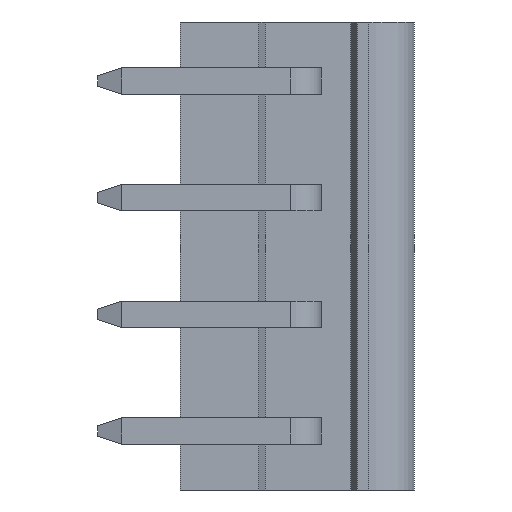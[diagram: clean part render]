
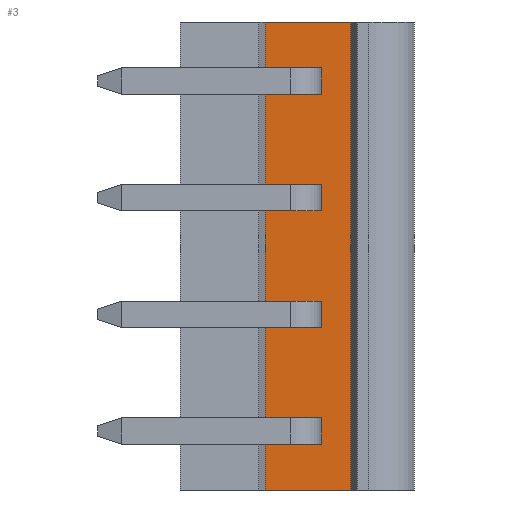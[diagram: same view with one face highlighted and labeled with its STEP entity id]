
A CAD part, front view. The second image highlights one B-rep face of the part: STEP entity #3.
In plain terms, the highlighted planar face has unit normal (0, -1, 0).
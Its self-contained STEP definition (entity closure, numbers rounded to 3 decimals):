
#3 = ADVANCED_FACE ( 'NONE', ( #485 ), #481, .F. ) ;
#37 = EDGE_CURVE ( 'NONE', #211, #288, #656, .T. ) ;
#210 = VERTEX_POINT ( 'NONE', #801 ) ;
#211 = VERTEX_POINT ( 'NONE', #799 ) ;
#250 = VERTEX_POINT ( 'NONE', #824 ) ;
#288 = VERTEX_POINT ( 'NONE', #862 ) ;
#473 = EDGE_LOOP ( 'NONE', ( #1274, #1277, #1309, #1298 ) ) ;
#481 = PLANE ( 'NONE',  #1346 ) ;
#485 = FACE_OUTER_BOUND ( 'NONE', #473, .T. ) ;
#487 = CARTESIAN_POINT ( 'NONE',  ( 7.43, 0.76, -10.22 ) ) ;
#488 = DIRECTION ( 'NONE',  ( 0., 1., 0. ) ) ;
#489 = DIRECTION ( 'NONE',  ( -1., 0., 0. ) ) ;
#656 = LINE ( 'NONE', #657, #1333 ) ;
#657 = CARTESIAN_POINT ( 'NONE',  ( 3.71, 0.76, 10.16 ) ) ;
#658 = DIRECTION ( 'NONE',  ( 1., 0., 0. ) ) ;
#799 = CARTESIAN_POINT ( 'NONE',  ( 3.71, 0.76, 10.16 ) ) ;
#801 = CARTESIAN_POINT ( 'NONE',  ( 3.71, 0.76, -10.22 ) ) ;
#824 = CARTESIAN_POINT ( 'NONE',  ( 7.43, 0.76, -10.22 ) ) ;
#862 = CARTESIAN_POINT ( 'NONE',  ( 7.43, 0.76, 10.16 ) ) ;
#956 = LINE ( 'NONE', #957, #1498 ) ;
#957 = CARTESIAN_POINT ( 'NONE',  ( 7.43, 0.76, -5.11 ) ) ;
#971 = DIRECTION ( 'NONE',  ( 0., 0., -1. ) ) ;
#1001 = LINE ( 'NONE', #1003, #1510 ) ;
#1003 = CARTESIAN_POINT ( 'NONE',  ( 3.71, 0.76, -5.11 ) ) ;
#1004 = DIRECTION ( 'NONE',  ( 0., 0., -1. ) ) ;
#1007 = LINE ( 'NONE', #1008, #1511 ) ;
#1008 = CARTESIAN_POINT ( 'NONE',  ( 5.1, 0.76, -10.22 ) ) ;
#1009 = DIRECTION ( 'NONE',  ( 1., 0., 0. ) ) ;
#1204 = EDGE_CURVE ( 'NONE', #288, #250, #956, .T. ) ;
#1215 = EDGE_CURVE ( 'NONE', #211, #210, #1001, .T. ) ;
#1217 = EDGE_CURVE ( 'NONE', #210, #250, #1007, .T. ) ;
#1274 = ORIENTED_EDGE ( 'NONE', *, *, #1204, .F. ) ;
#1277 = ORIENTED_EDGE ( 'NONE', *, *, #37, .F. ) ;
#1298 = ORIENTED_EDGE ( 'NONE', *, *, #1217, .T. ) ;
#1309 = ORIENTED_EDGE ( 'NONE', *, *, #1215, .T. ) ;
#1333 = VECTOR ( 'NONE', #658, 1000. ) ;
#1346 = AXIS2_PLACEMENT_3D ( 'NONE', #487, #488, #489 ) ;
#1498 = VECTOR ( 'NONE', #971, 1000. ) ;
#1510 = VECTOR ( 'NONE', #1004, 1000. ) ;
#1511 = VECTOR ( 'NONE', #1009, 1000. ) ;
